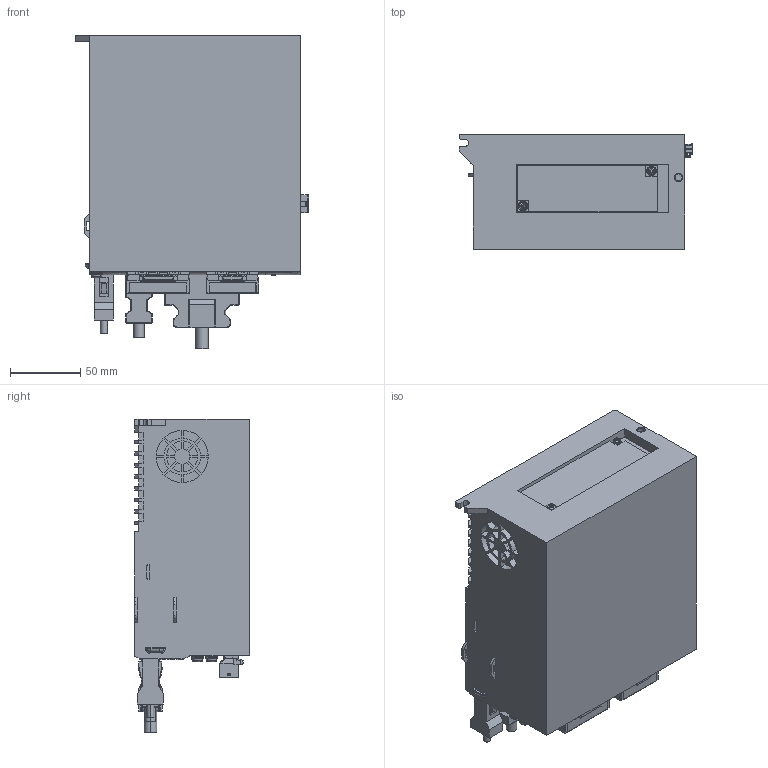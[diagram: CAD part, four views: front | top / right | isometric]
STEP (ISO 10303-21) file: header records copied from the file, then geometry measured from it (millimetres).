
FILE_DESCRIPTION (( 'STEP AP214' ), '1' );
FILE_NAME ('1.5KW-AP.STEP', '2022-11-02T05:46:18', ( '' ), ( '' ), 'SwSTEP 2.0', 'SolidWorks 2014', '' );
FILE_SCHEMA (( 'AUTOMOTIVE_DESIGN' ));
Length unit declared in the file: millimetre
Products named in the file (27): M3-H6; jack-t3507506; MUF-PK10K-X; STOM2X04P; plug-t3507505; M4-H8; plug-t3507506; STOG2X4P; jack-t3507505; 1.5KWP; 1.5KW-AP; 控制回路端子插座-SCI-SOSCN-君昊; 橈勤硉晤鎢ん脣芛
Assembly tree (14 placements, depth 2):
  M3-H6
  plug-t3507505
  M4-H8
  plug-t3507506
  M3-H6
Bounding box: 165.5 x 81.5 x 222.6 mm (x, y, z)
Volume: 1868670.7 mm3; surface area: 239483.6 mm2
Topology: 25 solids, 25 shells, 4454 faces, 12237 edges, 7915 vertices
Faces by surface type: plane 3400, cylinder 544, bspline 440, sphere 26, torus 24, cone 20
Entity records: 157254 total; most frequent: CARTESIAN_POINT 48456, ORIENTED_EDGE 24034, DIRECTION 19425, EDGE_CURVE 12017, VECTOR 9823, LINE 9823, VERTEX_POINT 7787, AXIS2_PLACEMENT_3D 4801
